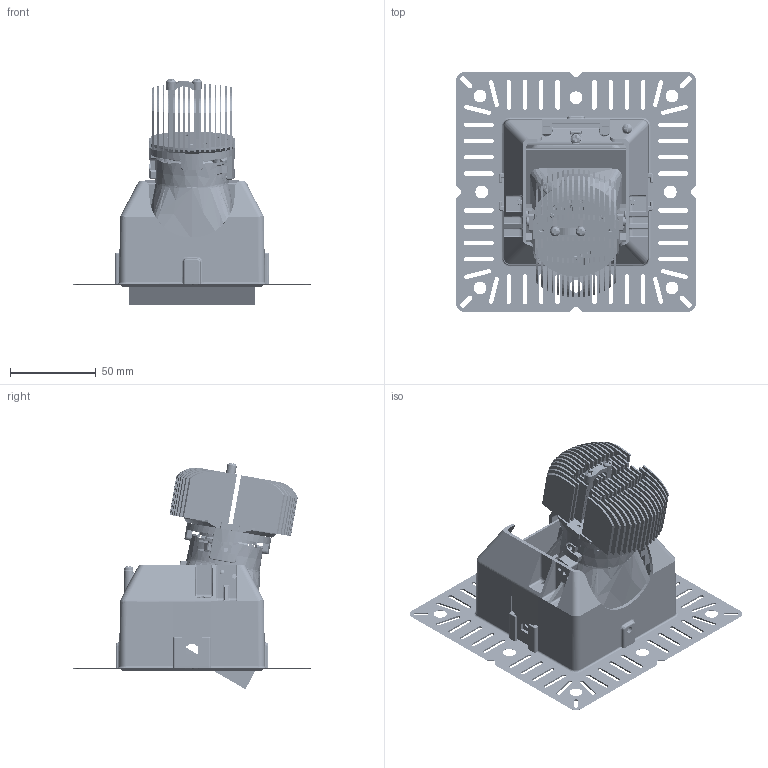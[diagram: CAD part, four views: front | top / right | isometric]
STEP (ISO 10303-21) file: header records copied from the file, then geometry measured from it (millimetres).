
FILE_DESCRIPTION(('CATIA V5 STEP Exchange'),'2;1');
FILE_NAME('C:\Users\stefano.giovinetto\Desktop\X.YP1C - M PRO Wall Washer Square Trimless Drop.stp','2020-10-29T08:07:56+00:00',('none'),('none'),'CATIA Version 5 Release 20 SP 7 (IN-10)','CATIA V5 STEP AP203','none');
FILE_SCHEMA(('CONFIG_CONTROL_DESIGN'));
Products named in the file (1): 0.0000_AllCATPart
Bounding box: 140 x 140 x 132.17 mm (x, y, z)
Volume: 149664.3 mm3; surface area: 196478.9 mm2
Topology: 36 solids, 58 shells, 9170 faces, 26448 edges, 17478 vertices
Faces by surface type: plane 6261, cylinder 2021, bspline 411, cone 235, torus 141, sphere 68, extrusion 29, revolution 4
Entity records: 350027 total; most frequent: CARTESIAN_POINT 119195, ORIENTED_EDGE 52489, DIRECTION 39356, EDGE_CURVE 26365, VECTOR 19037, LINE 19008, VERTEX_POINT 17472, AXIS2_PLACEMENT_3D 11625
